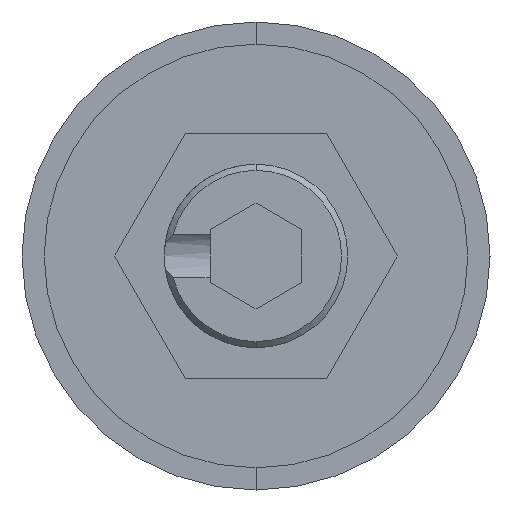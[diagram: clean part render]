
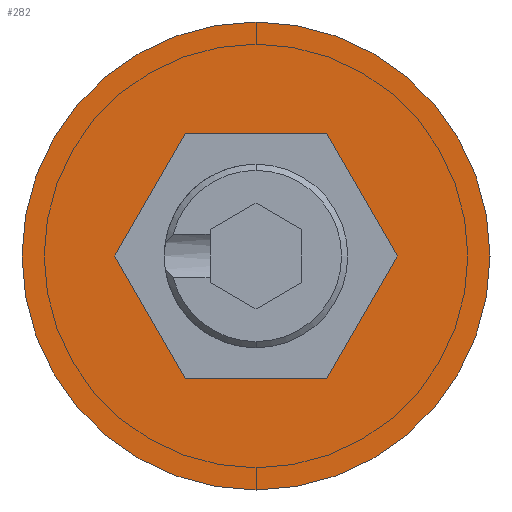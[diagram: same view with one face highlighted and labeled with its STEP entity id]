
A CAD part, front view. The second image highlights one B-rep face of the part: STEP entity #282.
In plain terms, the highlighted planar face has unit normal (0, -1, 0).
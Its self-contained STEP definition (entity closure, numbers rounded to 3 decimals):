
#4 = CARTESIAN_POINT ( 'NONE',  ( 2.309, 0., -4. ) ) ;
#15 = PLANE ( 'NONE',  #766 ) ;
#53 = FACE_OUTER_BOUND ( 'NONE', #521, .T. ) ;
#78 = AXIS2_PLACEMENT_3D ( 'NONE', #1781, #1374, #1502 ) ;
#134 = VECTOR ( 'NONE', #316, 1000. ) ;
#138 = VERTEX_POINT ( 'NONE', #1850 ) ;
#200 = LINE ( 'NONE', #2008, #1941 ) ;
#217 = EDGE_CURVE ( 'NONE', #785, #1127, #577, .T. ) ;
#228 = CARTESIAN_POINT ( 'NONE',  ( -4.619, 0., 0. ) ) ;
#279 = CARTESIAN_POINT ( 'NONE',  ( 2.309, 0., 4. ) ) ;
#282 = ADVANCED_FACE ( 'NONE', ( #1409, #53 ), #15, .T. ) ;
#316 = DIRECTION ( 'NONE',  ( -1., 0., 0. ) ) ;
#381 = ORIENTED_EDGE ( 'NONE', *, *, #2000, .F. ) ;
#501 = VECTOR ( 'NONE', #719, 1000. ) ;
#512 = DIRECTION ( 'NONE',  ( -0.5, 0., -0.866 ) ) ;
#521 = EDGE_LOOP ( 'NONE', ( #1068, #1794 ) ) ;
#577 = CIRCLE ( 'NONE', #78, 7.65 ) ;
#629 = LINE ( 'NONE', #1824, #1910 ) ;
#630 = EDGE_CURVE ( 'NONE', #645, #1292, #1553, .T. ) ;
#645 = VERTEX_POINT ( 'NONE', #1171 ) ;
#660 = ORIENTED_EDGE ( 'NONE', *, *, #630, .F. ) ;
#681 = CARTESIAN_POINT ( 'NONE',  ( 4.619, 0., 0. ) ) ;
#719 = DIRECTION ( 'NONE',  ( 0.5, 0., 0.866 ) ) ;
#748 = DIRECTION ( 'NONE',  ( 0., 0., -1. ) ) ;
#766 = AXIS2_PLACEMENT_3D ( 'NONE', #1467, #1391, #1015 ) ;
#779 = VECTOR ( 'NONE', #512, 1000. ) ;
#785 = VERTEX_POINT ( 'NONE', #1491 ) ;
#858 = DIRECTION ( 'NONE',  ( 0.5, 0., -0.866 ) ) ;
#947 = LINE ( 'NONE', #4, #501 ) ;
#958 = ORIENTED_EDGE ( 'NONE', *, *, #1389, .F. ) ;
#960 = CARTESIAN_POINT ( 'NONE',  ( -2.309, 0., 4. ) ) ;
#1011 = EDGE_CURVE ( 'NONE', #138, #1038, #1432, .T. ) ;
#1015 = DIRECTION ( 'NONE',  ( 0., 0., -1. ) ) ;
#1038 = VERTEX_POINT ( 'NONE', #960 ) ;
#1048 = EDGE_CURVE ( 'NONE', #1292, #1370, #947, .T. ) ;
#1068 = ORIENTED_EDGE ( 'NONE', *, *, #1643, .T. ) ;
#1072 = CARTESIAN_POINT ( 'NONE',  ( 2.309, 0., -4. ) ) ;
#1127 = VERTEX_POINT ( 'NONE', #1577 ) ;
#1171 = CARTESIAN_POINT ( 'NONE',  ( -2.309, 0., -4. ) ) ;
#1226 = LINE ( 'NONE', #2051, #779 ) ;
#1292 = VERTEX_POINT ( 'NONE', #1072 ) ;
#1299 = ORIENTED_EDGE ( 'NONE', *, *, #1459, .F. ) ;
#1370 = VERTEX_POINT ( 'NONE', #681 ) ;
#1374 = DIRECTION ( 'NONE',  ( 0., -1., 0. ) ) ;
#1389 = EDGE_CURVE ( 'NONE', #1038, #1462, #1226, .T. ) ;
#1391 = DIRECTION ( 'NONE',  ( 0., -1., 0. ) ) ;
#1401 = CARTESIAN_POINT ( 'NONE',  ( 0., 0., 0. ) ) ;
#1409 = FACE_BOUND ( 'NONE', #1811, .T. ) ;
#1432 = LINE ( 'NONE', #279, #134 ) ;
#1459 = EDGE_CURVE ( 'NONE', #1462, #645, #200, .T. ) ;
#1462 = VERTEX_POINT ( 'NONE', #228 ) ;
#1467 = CARTESIAN_POINT ( 'NONE',  ( 0., 0., 0. ) ) ;
#1482 = DIRECTION ( 'NONE',  ( 1., 0., 0. ) ) ;
#1491 = CARTESIAN_POINT ( 'NONE',  ( 0., 0., 7.65 ) ) ;
#1502 = DIRECTION ( 'NONE',  ( 0., 0., -1. ) ) ;
#1506 = VECTOR ( 'NONE', #1482, 1000. ) ;
#1521 = CIRCLE ( 'NONE', #1659, 7.65 ) ;
#1553 = LINE ( 'NONE', #1852, #1506 ) ;
#1556 = DIRECTION ( 'NONE',  ( 0., -1., 0. ) ) ;
#1577 = CARTESIAN_POINT ( 'NONE',  ( 0., 0., -7.65 ) ) ;
#1643 = EDGE_CURVE ( 'NONE', #1127, #785, #1521, .T. ) ;
#1659 = AXIS2_PLACEMENT_3D ( 'NONE', #1401, #1556, #748 ) ;
#1781 = CARTESIAN_POINT ( 'NONE',  ( 0., 0., 0. ) ) ;
#1794 = ORIENTED_EDGE ( 'NONE', *, *, #217, .T. ) ;
#1811 = EDGE_LOOP ( 'NONE', ( #660, #1299, #958, #1934, #381, #2069 ) ) ;
#1824 = CARTESIAN_POINT ( 'NONE',  ( 4.619, 0., 0. ) ) ;
#1850 = CARTESIAN_POINT ( 'NONE',  ( 2.309, 0., 4. ) ) ;
#1852 = CARTESIAN_POINT ( 'NONE',  ( -2.309, 0., -4. ) ) ;
#1910 = VECTOR ( 'NONE', #2003, 1000. ) ;
#1934 = ORIENTED_EDGE ( 'NONE', *, *, #1011, .F. ) ;
#1941 = VECTOR ( 'NONE', #858, 1000. ) ;
#2000 = EDGE_CURVE ( 'NONE', #1370, #138, #629, .T. ) ;
#2003 = DIRECTION ( 'NONE',  ( -0.5, 0., 0.866 ) ) ;
#2008 = CARTESIAN_POINT ( 'NONE',  ( -4.619, 0., 0. ) ) ;
#2051 = CARTESIAN_POINT ( 'NONE',  ( -2.309, 0., 4. ) ) ;
#2069 = ORIENTED_EDGE ( 'NONE', *, *, #1048, .F. ) ;
